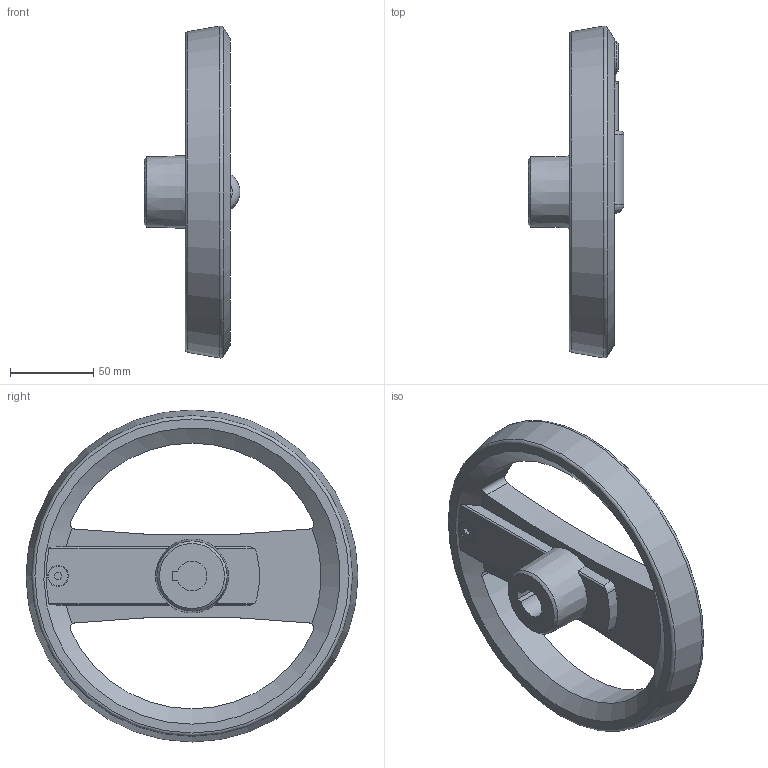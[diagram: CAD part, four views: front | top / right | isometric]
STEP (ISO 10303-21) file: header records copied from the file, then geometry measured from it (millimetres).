
FILE_DESCRIPTION( ( 'STEP AP203' ), '1' );
FILE_NAME( 'C:/Temp/Ganter_Step_05_03_2020/data/1_3/gn_924_7/gn_924_7_k/Handwheel with retractable handle GN 924.7-200-K18-R-SW (unactivated).stp', '2020-03-05T10:42:09', ( 'License CC BY-ND 4.0' ), ( 'CADENAS' ), ' ', 'PARTsolutions', ' ' );
FILE_SCHEMA( ( 'CONFIG_CONTROL_DESIGN' ) );
Length unit declared in the file: millimetre
Products named in the file (3): Handwheel with retractable handle GN 924.7-200-K18-R-SW (unactivated); _Umleggriff-Handrad GN 924.7-200-K18-R-SW-1; _Umleggriff-Handrad GN 924.7-200-K18-R-SW (0)-2
Assembly tree (2 placements, depth 2):
  Handwheel with retractable handle GN 924.7-200-K18-R-SW (unactivated)
    _Umleggriff-Handrad GN 924.7-200-K18-R-SW-1
    _Umleggriff-Handrad GN 924.7-200-K18-R-SW (0)-2
Bounding box: 57.7 x 199.58 x 199.58 mm (x, y, z)
Volume: 414917.1 mm3; surface area: 85927.6 mm2
Topology: 2 solids, 2 shells, 104 faces, 267 edges, 171 vertices
Faces by surface type: plane 44, cylinder 40, cone 10, torus 8, sphere 2
Full cylindrical faces by diameter (mm): 4 x4, 5 x1, 8 x1, 12 x1, 15 x1, 18.5 x1, 20 x1, 25 x2, 26.6 x1
Entity records: 3437 total; most frequent: CARTESIAN_POINT 955, DIRECTION 502, ORIENTED_EDGE 452, EDGE_CURVE 226, AXIS2_PLACEMENT_3D 206, VERTEX_POINT 164, EDGE_LOOP 147, FACE_OUTER_BOUND 124
